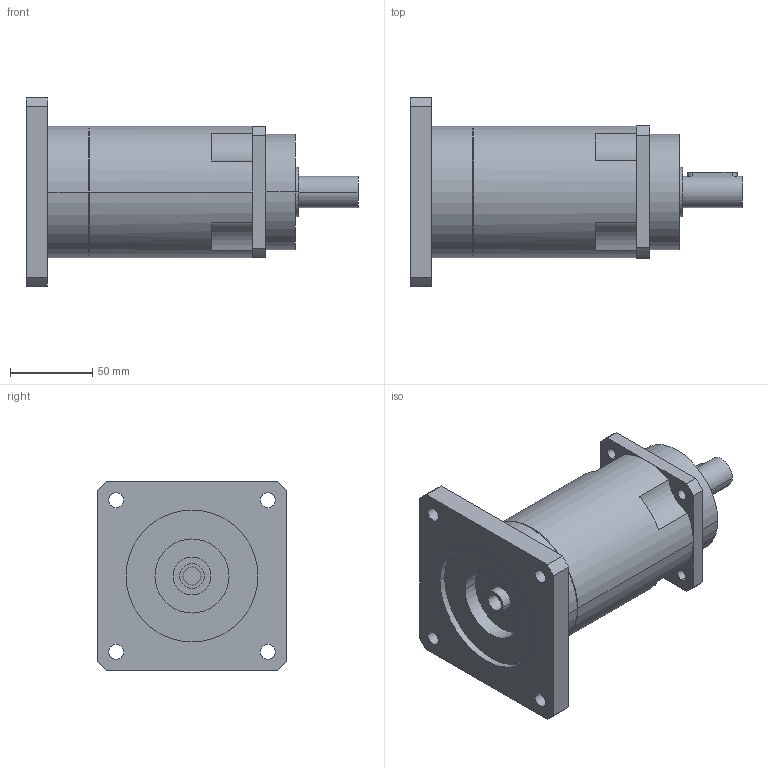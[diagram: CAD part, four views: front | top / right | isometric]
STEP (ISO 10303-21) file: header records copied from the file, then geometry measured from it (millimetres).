
FILE_DESCRIPTION(('CoCreate Modeling STEP Export'),'2;1');
FILE_NAME('GPR100_ig-48-64-80-100-120-144-180-216_19_B5_11_P30.stp','2014-08-26T11:53:13',(''),(''),'CoCreate Modeling STEP processor for AP214 (Solid Model)','CoCreate Modeling 16.00C 25-Feb-2009 (C) Parametric Technology GmbH','');
FILE_SCHEMA(('AUTOMOTIVE_DESIGN { 1 0 10303 214 1 1 1 1 }'));
Length unit declared in the file: millimetre
Products named in the file (2): GPR100_ig-48-64-80-100-120-144-180-216_19_B5_11_P30
Assembly tree (1 placements, depth 2):
  GPR100_ig-48-64-80-100-120-144-180-216_19_B5_11_P30
    GPR100_ig-48-64-80-100-120-144-180-216_19_B5_11_P30
Bounding box: 201.4 x 115 x 115 mm (x, y, z)
Volume: 879748.8 mm3; surface area: 80806.8 mm2
Topology: 1 solids, 1 shells, 89 faces, 240 edges, 162 vertices
Faces by surface type: cylinder 52, plane 31, cone 6
Entity records: 2577 total; most frequent: ORIENTED_EDGE 476, CARTESIAN_POINT 467, DIRECTION 386, EDGE_CURVE 238, VERTEX_POINT 162, AXIS2_PLACEMENT_3D 145, EDGE_LOOP 116, VECTOR 96
